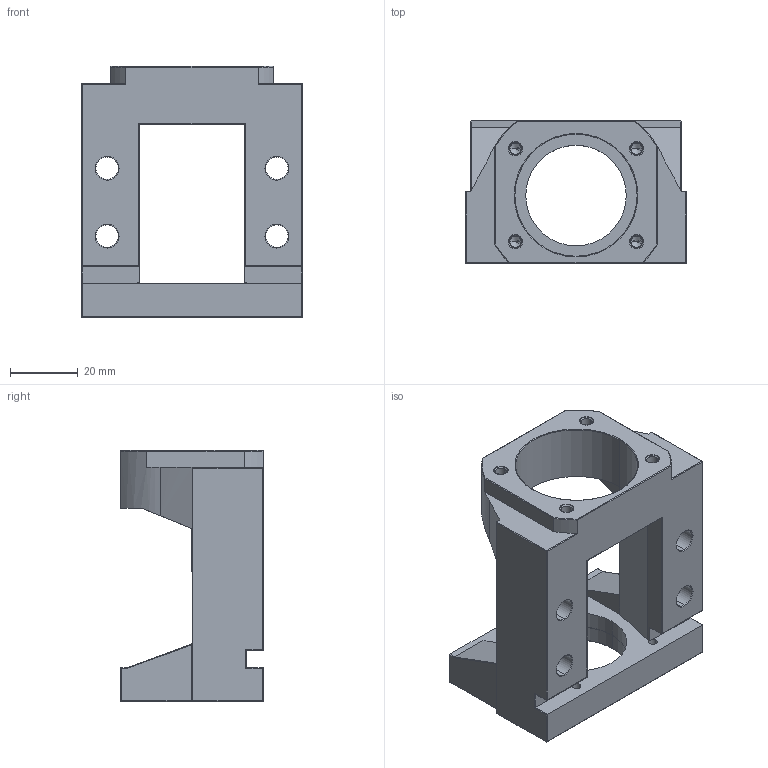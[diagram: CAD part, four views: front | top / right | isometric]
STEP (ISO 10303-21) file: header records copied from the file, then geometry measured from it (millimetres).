
FILE_DESCRIPTION (( 'STEP AP203' ), '1' );
FILE_NAME ('MBL10-A.STEP', '2017-12-28T06:06:30', ( '' ), ( '' ), 'SwSTEP 2.0', 'SolidWorks 2017', '' );
FILE_SCHEMA (( 'CONFIG_CONTROL_DESIGN' ));
Length unit declared in the file: millimetre
Products named in the file (1): MBL10-A
Bounding box: 65 x 42 x 74 mm (x, y, z)
Volume: 69960.5 mm3; surface area: 23057.7 mm2
Topology: 1 solids, 1 shells, 202 faces, 491 edges, 276 vertices
Faces by surface type: cylinder 89, plane 39, torus 34, cone 26, sphere 12, bspline 2
Entity records: 5888 total; most frequent: CARTESIAN_POINT 1118, DIRECTION 1061, ORIENTED_EDGE 942, EDGE_CURVE 471, AXIS2_PLACEMENT_3D 427, VERTEX_POINT 276, EDGE_LOOP 229, CIRCLE 226
